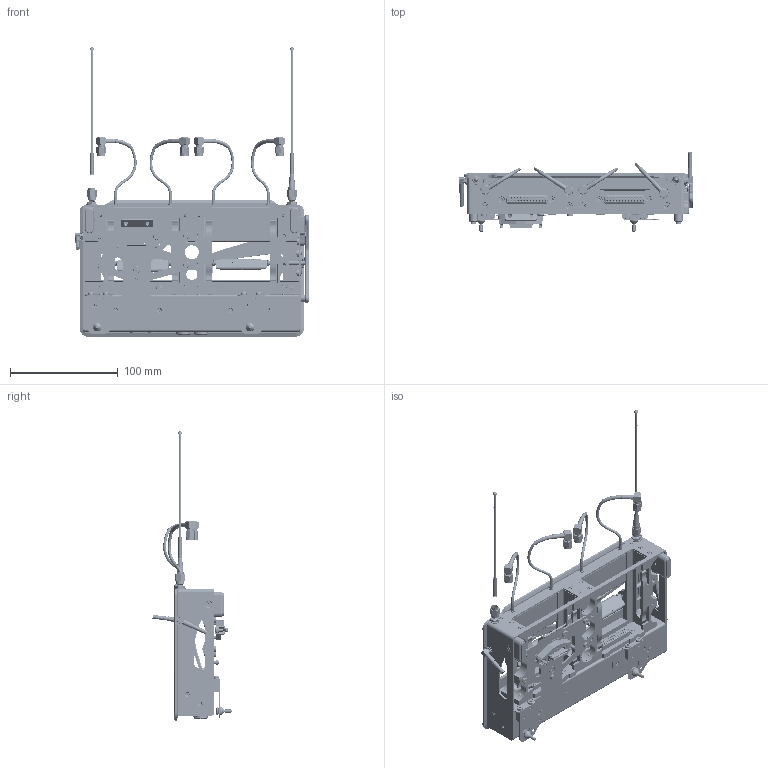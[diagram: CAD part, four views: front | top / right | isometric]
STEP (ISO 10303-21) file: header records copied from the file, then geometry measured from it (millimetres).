
FILE_DESCRIPTION(/* description */ (''),/* implementation_level */ '2;1');
FILE_NAME(/* name */ 'SL-2 Step Export.stp',/* time_stamp */ '2026-08-26T13:36:22-05:00',/* author */ ('chrisz'),/* organization */ (''),/* preprocessor_version */ 'ST-DEVELOPER v20.1',/* originating_system */ 'Autodesk Inventor 2026',/* authorisation */ '');
FILE_SCHEMA (('AUTOMOTIVE_DESIGN { 1 0 10303 214 3 1 1 }'));
Products named in the file (1): SL-2 Step Export
Bounding box: 217.75 x 73.59 x 269.21 mm (x, y, z)
Volume: 202436.1 mm3; surface area: 290543.3 mm2
Topology: 225 solids, 329 shells, 15476 faces, 40533 edges, 26387 vertices
Faces by surface type: plane 8544, cylinder 3826, cone 1566, bspline 1303, torus 212, sphere 25
Full cylindrical faces by diameter (mm): 0.238 x1, 0.381 x2, 0.428 x1, 0.584 x16, 0.6 x22, 0.601 x2, 0.71 x4, 0.75 x4, 0.8 x4, 0.889 x2, 0.9 x2, 0.91 x6, 1 x16, 1.05 x6, 1.1 x4, 1.112 x29, 1.12 x2, 1.181 x5, 1.2 x53, 1.3 x2, 1.32 x6, 1.358 x1, 1.459 x32, 1.5 x6, 1.524 x38, 1.567 x4, 1.588 x4, 1.6 x1, 1.617 x1, 1.694 x7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
Entity records: 618506 total; most frequent: CARTESIAN_POINT 234175, ORIENTED_EDGE 80958, DIRECTION 69974, EDGE_CURVE 40479, VERTEX_POINT 26387, LINE 24286, VECTOR 24286, AXIS2_PLACEMENT_3D 22844
